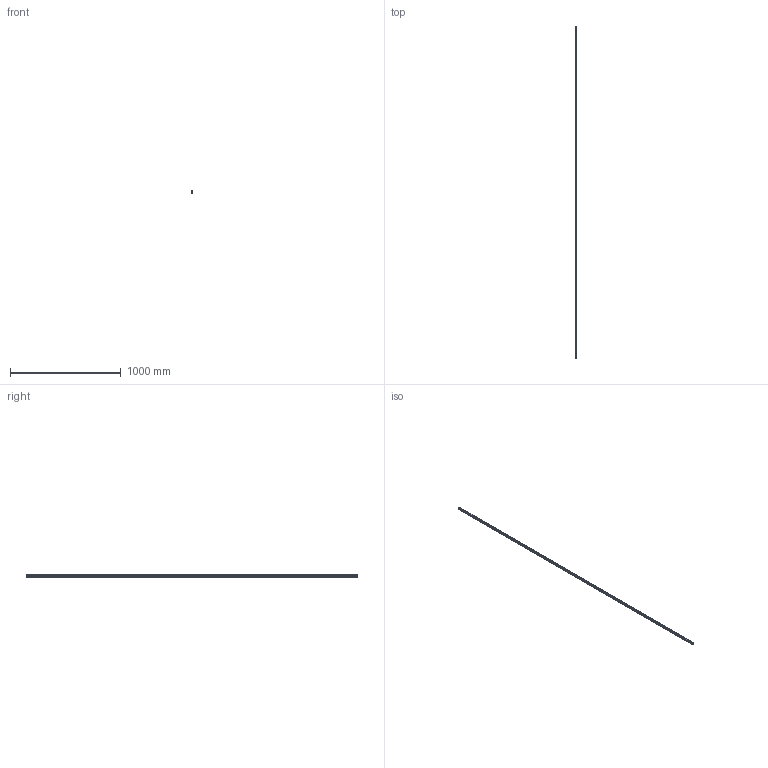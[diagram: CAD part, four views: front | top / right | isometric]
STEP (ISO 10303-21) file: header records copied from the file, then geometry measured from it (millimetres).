
FILE_DESCRIPTION((''),'2;1');
FILE_NAME('GSC0808','2002-12-27T',('Lipro doo'),('Lipro d.o.o.'),'PRO/ENGINEER BY PARAMETRIC TECHNOLOGY CORPORATION, 2001150','PRO/ENGINEER BY PARAMETRIC TECHNOLOGY CORPORATION, 2001150','');
FILE_SCHEMA(('CONFIG_CONTROL_DESIGN'));
Length unit declared in the file: millimetre
Products named in the file (1): GSC0808
Bounding box: 15 x 3000 x 20 mm (x, y, z)
Volume: 697380 mm3; surface area: 230673.7 mm2
Topology: 1 solids, 1 shells, 18 faces, 48 edges, 32 vertices
Faces by surface type: plane 18
Entity records: 590 total; most frequent: CARTESIAN_POINT 98, ORIENTED_EDGE 96, DIRECTION 84, VECTOR 48, LINE 48, EDGE_CURVE 48, VERTEX_POINT 32, AXIS2_PLACEMENT_3D 18
